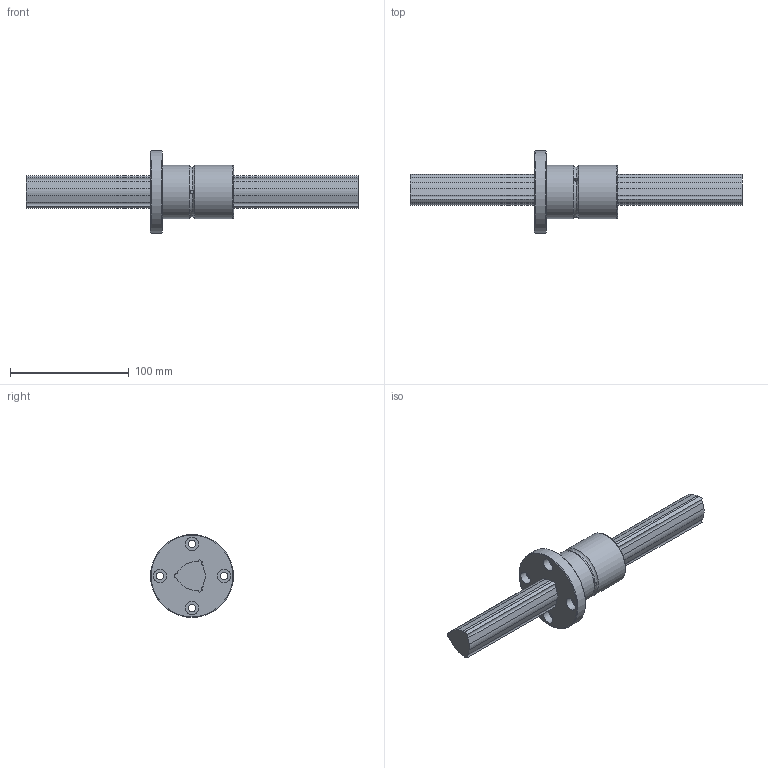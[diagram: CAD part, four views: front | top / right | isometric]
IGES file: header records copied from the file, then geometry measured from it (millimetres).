
Start section: Data from Parasolid IGES Translator 26.0.171, Copyright(c) 2006 Siemens PLM Software. All Rights Reserved.
Global section: file name: LBF30+280L(2801050).igs; native system: By Siemens PLM Incorporated; preprocessor: XPlus GENERIC/IGES 26.0.171; author: Noname; organization: Noname; date: 20240523.120454; units: millimetre
Bounding box: 280 x 70 x 70 mm (x, y, z)
Surface area: 49331.2 mm2 (no closed solid volume)
Topology: 0 solids, 0 shells, 71 faces, 356 edges, 335 vertices
Faces by surface type: revolution 47, extrusion 24
